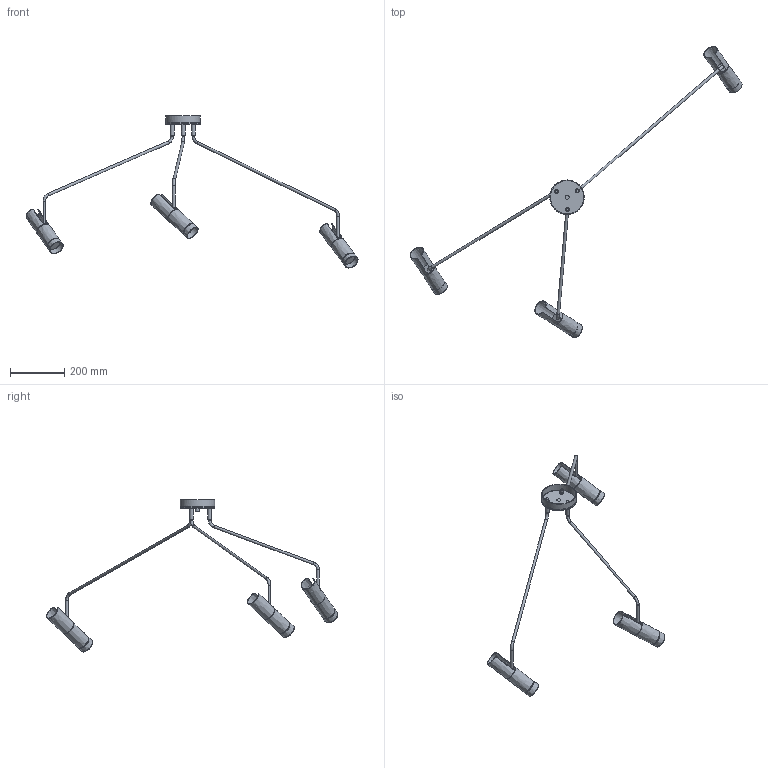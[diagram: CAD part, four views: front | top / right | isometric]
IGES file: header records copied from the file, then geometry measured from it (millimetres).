
Start section: SolidWorks IGES file using NURBS representation for surfaces
Global section: file name: Z:\Modele 3D_WWW\_KOLEKCJE WWW\EYE-SUPER\EYE-SUPER-6491-6497-6504\EYE-SUPER-6491-6497-6504.IGS; native system: SolidWorks 2021; preprocessor: SolidWorks 2021; author: gabriela.tworek; date: 220323.110136; units: millimetre
Bounding box: 1219.63 x 1069.94 x 558.54 mm (x, y, z)
Surface area: 351836.3 mm2 (no closed solid volume)
Topology: 0 solids, 0 shells, 100 faces, 449 edges, 406 vertices
Faces by surface type: bspline 100
